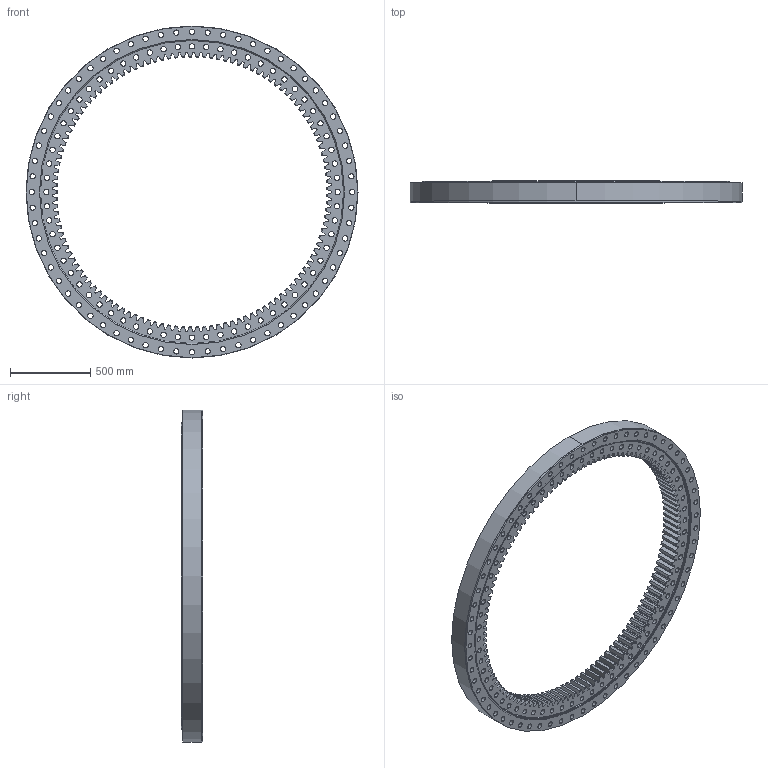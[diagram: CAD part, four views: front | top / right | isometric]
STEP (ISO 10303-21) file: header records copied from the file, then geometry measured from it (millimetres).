
FILE_DESCRIPTION (( 'STEP AP203' ), '1' );
FILE_NAME ('B2235-1-2066AA.STEP', '2022-08-04T10:33:25', ( '' ), ( '' ), 'SwSTEP 2.0', 'SolidWorks 2020', '' );
FILE_SCHEMA (( 'CONFIG_CONTROL_DESIGN' ));
Length unit declared in the file: millimetre
Products named in the file (1): B2235-1-2066AA
Bounding box: 2066 x 134 x 2066 mm (x, y, z)
Volume: 118373032 mm3; surface area: 7778353.3 mm2
Topology: 4 solids, 4 shells, 1150 faces, 3401 edges, 2266 vertices
Faces by surface type: plane 499, cylinder 401, cone 250
Entity records: 39712 total; most frequent: CARTESIAN_POINT 8754, ORIENTED_EDGE 6802, DIRECTION 6033, EDGE_CURVE 3401, VERTEX_POINT 2266, AXIS2_PLACEMENT_3D 2207, LINE 1619, VECTOR 1619
